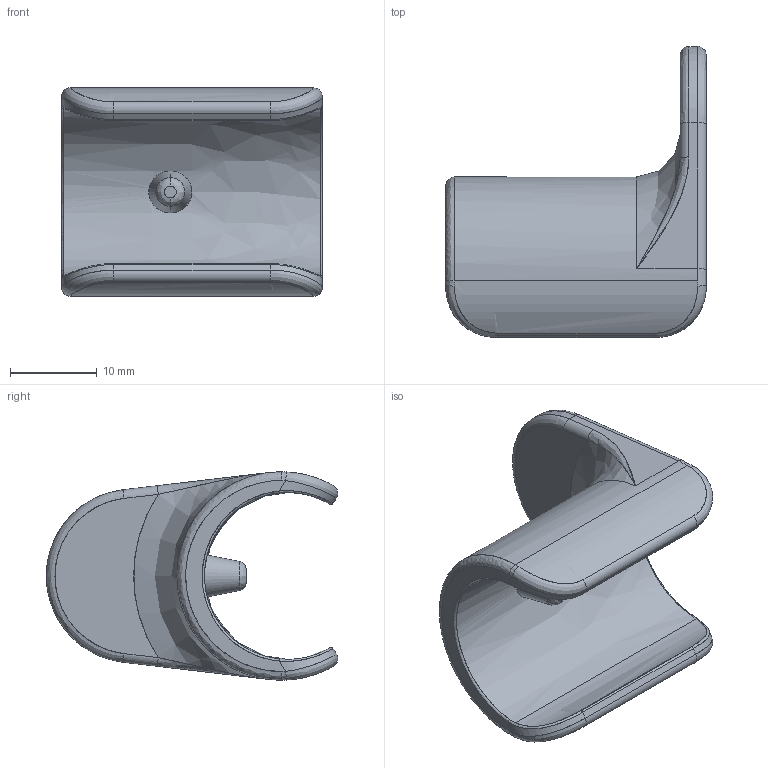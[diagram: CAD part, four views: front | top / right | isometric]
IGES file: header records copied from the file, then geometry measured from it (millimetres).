
Start section: SolidWorks IGES file using analytic representation for surfaces
Global section: file name: R:\DESIGN STORE\PRODUCTS\INDOOR AIRING\C0249 Bed Bath & Beyond X-Wing\stage 1\solidworks\C2\C0249 Iges 091013\C0249_109_C2_hanger rail stop_A.IGS; native system: SolidWorks 2013; preprocessor: SolidWorks 2013; author: howardm; date: 131009.161150; units: millimetre
Bounding box: 30 x 33.56 x 24 mm (x, y, z)
Surface area: 3673.4 mm2 (no closed solid volume)
Topology: 0 solids, 0 shells, 53 faces, 526 edges, 524 vertices
Faces by surface type: bspline 31, revolution 22
